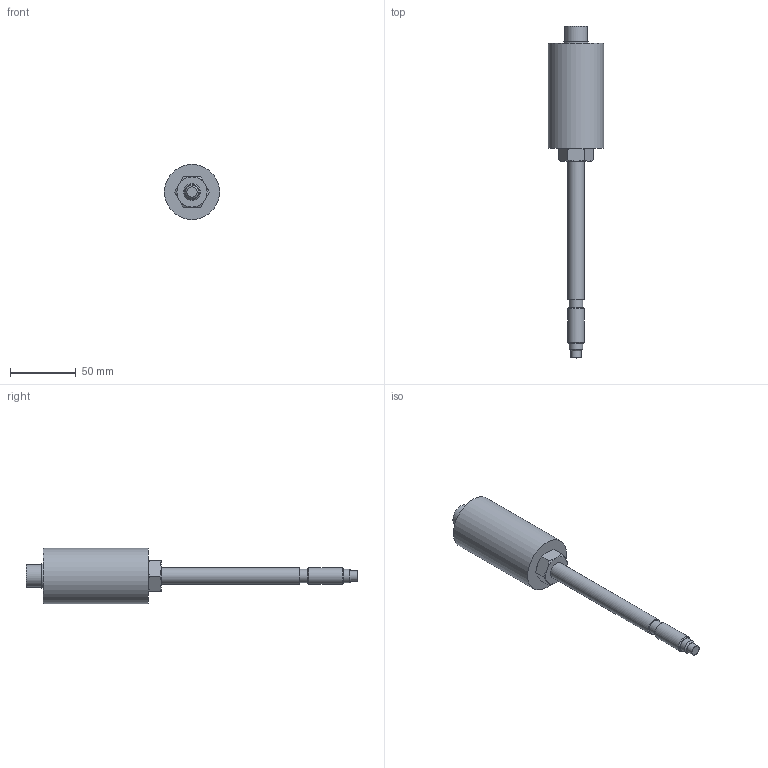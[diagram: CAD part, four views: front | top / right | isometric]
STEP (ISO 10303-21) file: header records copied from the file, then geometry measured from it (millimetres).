
FILE_DESCRIPTION (( 'STEP AP203' ), '1' );
FILE_NAME ('YICZ100PHZ-1(0).STEP', '2023-07-28T06:36:42', ( '' ), ( '' ), 'SwSTEP 2.0', 'SolidWorks 2021', '' );
FILE_SCHEMA (( 'CONFIG_CONTROL_DESIGN' ));
Length unit declared in the file: millimetre
Products named in the file (1): YICZ100PHZ-1(0)
Bounding box: 42 x 253 x 42 mm (x, y, z)
Volume: 136433.6 mm3; surface area: 20700.6 mm2
Topology: 1 solids, 1 shells, 30 faces, 59 edges, 38 vertices
Faces by surface type: plane 15, cylinder 8, cone 7
Full cylindrical faces by diameter (mm): 7.8 x1, 10.5 x2, 12.7 x2, 17 x1, 19 x1, 42 x1
Entity records: 899 total; most frequent: CARTESIAN_POINT 253, DIRECTION 116, ORIENTED_EDGE 96, AXIS2_PLACEMENT_3D 53, EDGE_LOOP 48, EDGE_CURVE 48, FACE_OUTER_BOUND 38, VERTEX_POINT 38
